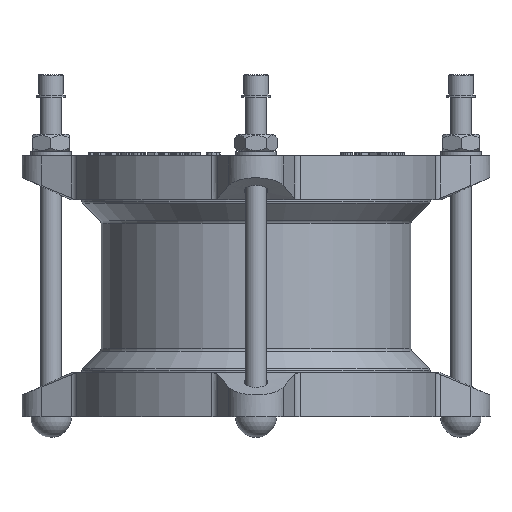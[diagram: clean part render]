
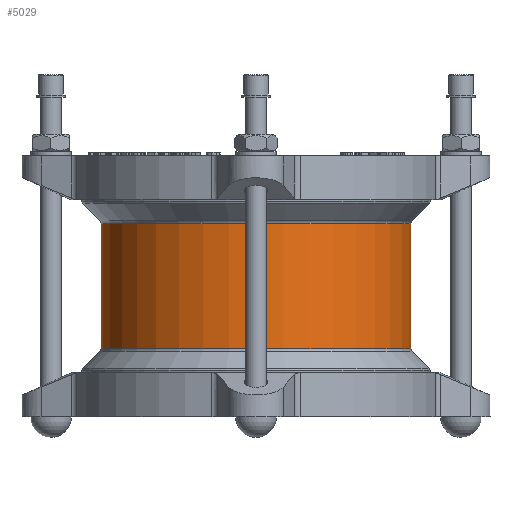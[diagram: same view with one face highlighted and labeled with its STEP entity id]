
A CAD part, front view. The second image highlights one B-rep face of the part: STEP entity #5029.
In plain terms, the highlighted cylindrical face has radius 91 mm (diameter 182 mm), a full revolution.
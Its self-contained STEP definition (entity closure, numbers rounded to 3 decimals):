
#5029=ADVANCED_FACE('',(#9365,#9367),#9369,.T.);
#9365=FACE_OUTER_BOUND('',#9366,.T.);
#9366=EDGE_LOOP('',(#13903));
#9367=FACE_OUTER_BOUND('',#9368,.T.);
#9368=EDGE_LOOP('',(#13904));
#9369=CYLINDRICAL_SURFACE('',#9370,91.);
#9370=AXIS2_PLACEMENT_3D('',#9371,#9372,#9373);
#9371=CARTESIAN_POINT('',(0.,0.,37.714));
#9372=DIRECTION('',(0.,0.,-1.));
#9373=DIRECTION('',(0.,1.,0.));
#13903=ORIENTED_EDGE('',*,*,#15882,.T.);
#13904=ORIENTED_EDGE('',*,*,#15883,.F.);
#15882=EDGE_CURVE('',#18529,#18529,#18530,.T.);
#15883=EDGE_CURVE('',#18531,#18531,#18532,.T.);
#18529=VERTEX_POINT('',#26831);
#18530=CIRCLE('',#26832,91.);
#18531=VERTEX_POINT('',#26836);
#18532=CIRCLE('',#26837,91.);
#26831=CARTESIAN_POINT('',(0.,91.,36.679));
#26832=AXIS2_PLACEMENT_3D('',#26833,#26834,#26835);
#26833=CARTESIAN_POINT('',(0.,0.,36.679));
#26834=DIRECTION('',(0.,0.,-1.));
#26835=DIRECTION('',(0.,1.,0.));
#26836=CARTESIAN_POINT('',(0.,91.,-36.679));
#26837=AXIS2_PLACEMENT_3D('',#26838,#26839,#26840);
#26838=CARTESIAN_POINT('',(0.,0.,-36.679));
#26839=DIRECTION('',(0.,0.,-1.));
#26840=DIRECTION('',(0.,1.,0.));
